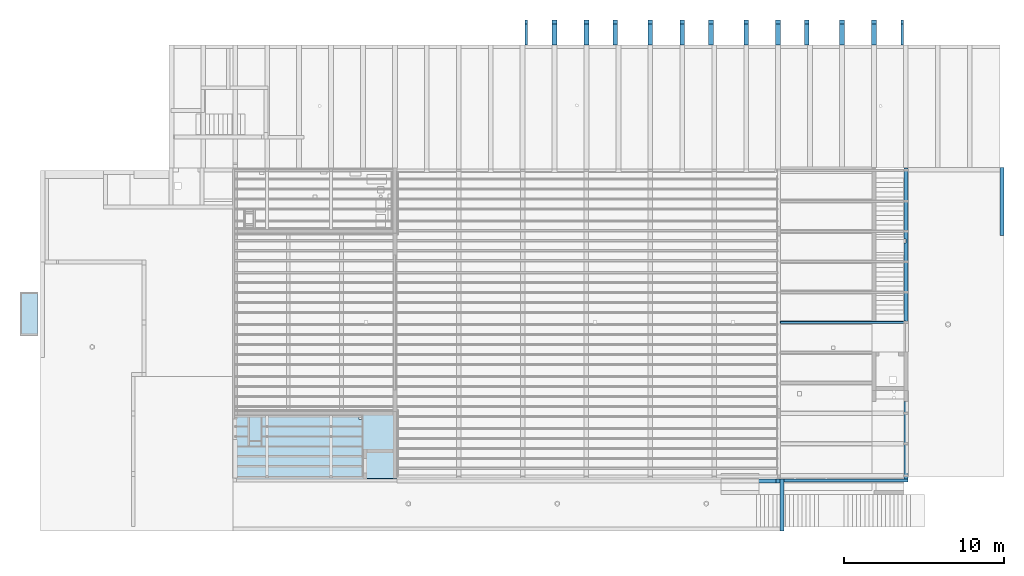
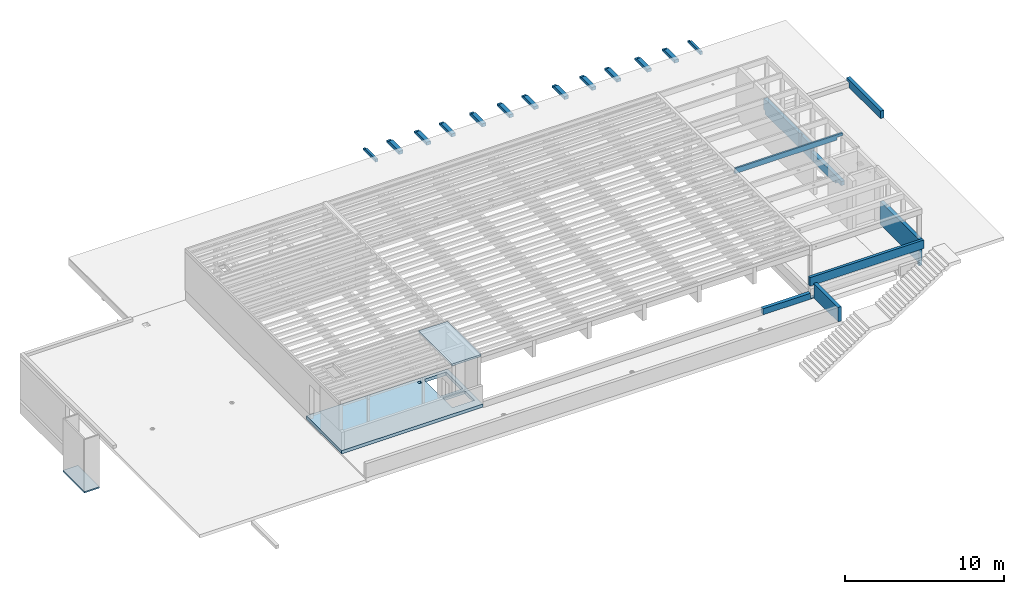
# One storey, part 7 of 14: 21 beams, 3 slabs, 3 openings.
"""IFC2X3 building model written with IfcOpenShell, lengths in metres."""

from ifc_helpers import new_model, entity, si_unit, converted_unit, direction, frame, frame_2d, origin, place, context, subcontext, project, spatial, rectangle, extrude, faceted_brep, material, layer, layer_set, layer_usage, type_object, element, save


model = new_model("IFC2X3")

# Units and contexts
model_context = context("Model", 3, precision=1e-05, world=frame((30.086303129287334, 2.687674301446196, 462.0)), true_north=direction((0.19008937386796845, 0.9817667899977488)))
body_context = subcontext(model_context, "Body", "Model", "MODEL_VIEW")
ifc_project = project(units=[si_unit("LENGTHUNIT", "METRE"), si_unit("AREAUNIT", "SQUARE_METRE"), converted_unit("PLANEANGLEUNIT", "DEGREE", entity("IfcPlaneAngleMeasure", 0.017453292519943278), si_unit("PLANEANGLEUNIT", "RADIAN"), dimensions=[0, 0, 0, 0, 0, 0, 0]), si_unit("VOLUMEUNIT", "CUBIC_METRE")], contexts=[model_context])

# Site, building, storey
site_placement = place(None, origin())
site = spatial("IfcSite", under=ifc_project, at=site_placement, Name="Default", CompositionType="ELEMENT")
building_placement = place(site_placement, origin())
building = spatial("IfcBuilding", under=site, at=building_placement, CompositionType="ELEMENT")
storey_placement = place(building_placement, origin())
storey = spatial("IfcBuildingStorey", under=building, at=storey_placement, Name="FB_E00_OKFB", CompositionType="ELEMENT", Elevation=0.0)

# Beams
ifc_material_1 = material(Name="WS_CONCRETE_REINFORCED")
beam_type_1 = type_object("IfcBeamType", Name="WS_CBM_UPST_REC:CBM_UPST_REC_250x835", PredefinedType="BEAM")
beam_1_placement = place(storey_placement, frame((98.00533792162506, -5.386775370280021, 3.68), z_axis=(0.0, 0.0, 1.0), x_axis=(0.0, -1.0, 0.0)))
element("IfcBeam", 1, at=beam_1_placement, inside=storey, type_object=beam_type_1, material=ifc_material_1, Name="WS_CBM_UPST_REC:CBM_UPST_REC_250x835", ObjectType="WS_CBM_UPST_REC:CBM_UPST_REC_250x835", context=body_context, shape_type="Brep", body=[
    faceted_brep([(0.0, 0.2500000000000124, 0.5849999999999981), (0.0, 0.0, 0.5849999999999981), (0.0, 0.0, 0.0), (0.0, 0.2500000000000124, 0.0), (-4.257120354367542, 0.2500000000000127, 0.5849999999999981), (-4.257120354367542, 0.0, 0.5849999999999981), (-4.257120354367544, 0.0, 0.3549999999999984), (-3.9571203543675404, 0.0, 0.3549999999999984), (-3.9571203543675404, 0.0, 0.0), (-3.95712035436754, 0.25000000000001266, 0.0), (-3.95712035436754, 0.25000000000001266, 0.3549999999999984), (-4.257120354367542, 0.2500000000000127, 0.3549999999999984)], [[[0, 1, 2, 3]], [[1, 0, 4, 5]], [[2, 1, 5, 6, 7, 8]], [[0, 3, 9, 10, 11, 4]], [[3, 2, 8, 9]], [[10, 7, 6, 11]], [[7, 10, 9, 8]], [[5, 4, 11, 6]]]),
])
ifc_material_2 = material(Name="WS_TIMBER_GLT_0°")
beam_type_2 = type_object("IfcBeamType", Name="WS_TBM_GLT:TBM_GLT_120/400", PredefinedType="BEAM")
beam_2_placement = place(storey_placement, frame((84.25533735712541, -10.894647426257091, 7.6049999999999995), z_axis=(0.0, 0.0, 1.0), x_axis=(-1.0, 0.0, 0.0)))
element("IfcBeam", 2, at=beam_2_placement, inside=storey, type_object=beam_type_2, material=ifc_material_2, Name="WS_TBM_GLT:TBM_GLT_120/400", ObjectType="WS_TBM_GLT:TBM_GLT_120/400", context=body_context, shape_type="Brep", body=[
    faceted_brep([(-7.84499997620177, -0.12000000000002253, 0.4), (-7.84499997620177, 0.0, 0.4), (-7.84499997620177, 0.0, 0.19999999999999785), (-7.84499997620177, -0.12000000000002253, 0.19999999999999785), (0.0, 0.0, 0.0), (0.0, 0.0, 0.4), (0.0, -0.12000000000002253, 0.4), (0.0, -0.12000000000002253, 0.0), (-7.409999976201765, -0.12000000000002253, 0.0), (-7.409999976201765, 0.0, 0.0), (-7.409999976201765, -0.12000000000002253, 0.19999999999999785), (-7.409999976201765, 0.0, 0.19999999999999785)], [[[0, 1, 2, 3]], [[4, 5, 6, 7]], [[1, 0, 6, 5]], [[4, 7, 8, 9]], [[7, 6, 0, 3, 10, 8]], [[5, 4, 9, 11, 2, 1]], [[11, 10, 3, 2]], [[10, 11, 9, 8]]]),
])
beam_type_3 = type_object("IfcBeamType", Name="WS_TBM_GLT:TBM_GLT_300/240", PredefinedType="BEAM")
beam_3_placement = place(storey_placement, frame((71.95533609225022, 6.53035183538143, 3.525), z_axis=(0.0, 0.0, 1.0), x_axis=(0.0, 1.0, 0.0)))
element("IfcBeam", 3, at=beam_3_placement, inside=storey, type_object=beam_type_3, material=ifc_material_2, Name="WS_TBM_GLT:TBM_GLT_300/240", ObjectType="WS_TBM_GLT:TBM_GLT_300/240", context=body_context, shape_type="Brep", body=[
    faceted_brep([(0.0, 0.0, 0.0), (0.0, -0.3000000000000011, 0.0), (0.0, -0.3000000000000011, 0.24000000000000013), (0.0, 0.0, 0.24000000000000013), (1.5749999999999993, -0.3000000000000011, 0.0), (1.5749999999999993, 0.0, 0.0), (1.5749999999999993, 0.0, 0.1530000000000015), (1.5749999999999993, -0.3000000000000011, 0.1530000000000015), (1.3309999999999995, -0.3000000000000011, 0.24000000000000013), (1.3309999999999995, 0.0, 0.24000000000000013), (1.3309999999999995, -0.3000000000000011, 0.1530000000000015), (1.3309999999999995, 0.0, 0.1530000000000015)], [[[0, 1, 2, 3]], [[4, 5, 6, 7]], [[3, 2, 8, 9]], [[1, 0, 5, 4]], [[2, 1, 4, 7, 10, 8]], [[0, 3, 9, 11, 6, 5]], [[10, 11, 9, 8]], [[11, 10, 7, 6]]]),
])
beam_4_placement = place(storey_placement, frame((73.755337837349, 6.530351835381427, 3.525), z_axis=(0.0, 0.0, 1.0), x_axis=(0.0, 1.0, 0.0)))
element("IfcBeam", 4, at=beam_4_placement, inside=storey, type_object=beam_type_3, material=ifc_material_2, Name="WS_TBM_GLT:TBM_GLT_300/240", ObjectType="WS_TBM_GLT:TBM_GLT_300/240", context=body_context, shape_type="Brep", body=[
    faceted_brep([(0.0, 0.0, 0.0), (0.0, -0.3000000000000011, 0.0), (0.0, -0.3000000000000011, 0.24000000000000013), (0.0, 0.0, 0.24000000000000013), (1.5749999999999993, -0.3000000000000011, 0.0), (1.5749999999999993, 0.0, 0.0), (1.5749999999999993, 0.0, 0.15300000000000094), (1.5749999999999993, -0.3000000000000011, 0.15300000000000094), (1.3309999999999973, -0.3000000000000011, 0.24000000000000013), (1.3309999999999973, 0.0, 0.24000000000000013), (1.3309999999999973, -0.3000000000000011, 0.15300000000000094), (1.3309999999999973, 0.0, 0.15300000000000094)], [[[0, 1, 2, 3]], [[4, 5, 6, 7]], [[3, 2, 8, 9]], [[1, 0, 5, 4]], [[2, 1, 4, 7, 10, 8]], [[0, 3, 9, 11, 6, 5]], [[10, 11, 9, 8]], [[11, 10, 7, 6]]]),
])
beam_5_placement = place(storey_placement, frame((69.9553370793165, 6.530351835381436, 3.525), z_axis=(0.0, 0.0, 1.0), x_axis=(0.0, 1.0, 0.0)))
element("IfcBeam", 5, at=beam_5_placement, inside=storey, type_object=beam_type_3, material=ifc_material_2, Name="WS_TBM_GLT:TBM_GLT_300/240", ObjectType="WS_TBM_GLT:TBM_GLT_300/240", context=body_context, shape_type="Brep", body=[
    faceted_brep([(0.0, 0.0, 0.0), (0.0, -0.3000000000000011, 0.0), (0.0, -0.3000000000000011, 0.24000000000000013), (0.0, 0.0, 0.24000000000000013), (1.5749999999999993, -0.3000000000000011, 0.0), (1.5749999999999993, 0.0, 0.0), (1.5749999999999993, 0.0, 0.1530000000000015), (1.5749999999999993, -0.3000000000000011, 0.1530000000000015), (1.3310000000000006, -0.3000000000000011, 0.24000000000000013), (1.3310000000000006, 0.0, 0.24000000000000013), (1.3310000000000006, -0.3000000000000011, 0.1530000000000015), (1.3310000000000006, 0.0, 0.1530000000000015)], [[[0, 1, 2, 3]], [[4, 5, 6, 7]], [[3, 2, 8, 9]], [[1, 0, 5, 4]], [[2, 1, 4, 7, 10, 8]], [[0, 3, 9, 11, 6, 5]], [[10, 11, 9, 8]], [[11, 10, 7, 6]]]),
])
beam_6_placement = place(storey_placement, frame((75.95533609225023, 6.530351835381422, 3.525), z_axis=(0.0, 0.0, 1.0), x_axis=(0.0, 1.0, 0.0)))
element("IfcBeam", 6, at=beam_6_placement, inside=storey, type_object=beam_type_3, material=ifc_material_2, Name="WS_TBM_GLT:TBM_GLT_300/240", ObjectType="WS_TBM_GLT:TBM_GLT_300/240", context=body_context, shape_type="Brep", body=[
    faceted_brep([(0.0, 0.0, 0.0), (0.0, -0.3000000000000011, 0.0), (0.0, -0.3000000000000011, 0.24000000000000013), (0.0, 0.0, 0.24000000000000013), (1.5749999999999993, -0.3000000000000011, 0.0), (1.5749999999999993, 0.0, 0.0), (1.5749999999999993, 0.0, 0.15300000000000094), (1.5749999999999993, -0.3000000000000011, 0.15300000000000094), (1.3309999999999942, -0.3000000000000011, 0.24000000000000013), (1.3309999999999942, 0.0, 0.24000000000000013), (1.3309999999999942, -0.3000000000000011, 0.15300000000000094), (1.3309999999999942, 0.0, 0.15300000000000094)], [[[0, 1, 2, 3]], [[4, 5, 6, 7]], [[3, 2, 8, 9]], [[1, 0, 5, 4]], [[2, 1, 4, 7, 10, 8]], [[0, 3, 9, 11, 6, 5]], [[10, 11, 9, 8]], [[11, 10, 7, 6]]]),
])
beam_7_placement = place(storey_placement, frame((77.95533510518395, 6.53035183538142, 3.525), z_axis=(0.0, 0.0, 1.0), x_axis=(0.0, 1.0, 0.0)))
element("IfcBeam", 7, at=beam_7_placement, inside=storey, type_object=beam_type_3, material=ifc_material_2, Name="WS_TBM_GLT:TBM_GLT_300/240", ObjectType="WS_TBM_GLT:TBM_GLT_300/240", context=body_context, shape_type="Brep", body=[
    faceted_brep([(0.0, -1.2295337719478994e-06, 0.0), (0.0, -0.30000122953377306, 0.0), (0.0, -0.30000122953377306, 0.24000000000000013), (0.0, -1.2295337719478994e-06, 0.24000000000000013), (1.5749999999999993, -0.30000122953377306, 0.0), (1.5749999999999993, -1.2295337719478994e-06, 0.0), (1.5749999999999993, -1.2295337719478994e-06, 0.15300000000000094), (1.5749999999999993, -0.30000122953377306, 0.15300000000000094), (1.3309999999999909, -0.30000122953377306, 0.24000000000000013), (1.3309999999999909, -1.2295337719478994e-06, 0.24000000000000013), (1.3309999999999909, -0.30000122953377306, 0.15300000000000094), (1.3309999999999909, -1.2295337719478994e-06, 0.15300000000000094), (1.3309999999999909, -0.3000000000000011, 0.15300000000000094), (1.3309999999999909, 0.0, 0.15300000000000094)], [[[0, 1, 2, 3]], [[4, 5, 6, 7]], [[3, 2, 8, 9]], [[1, 0, 5, 4]], [[2, 1, 4, 7, 10, 8]], [[0, 3, 9, 11, 6, 5]], [[12, 11, 9, 8]], [[13, 10, 7, 6]]]),
])
beam_8_placement = place(storey_placement, frame((79.75533735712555, 6.530351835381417, 3.525), z_axis=(0.0, 0.0, 1.0), x_axis=(0.0, 1.0, 0.0)))
element("IfcBeam", 8, at=beam_8_placement, inside=storey, type_object=beam_type_3, material=ifc_material_2, Name="WS_TBM_GLT:TBM_GLT_300/240", ObjectType="WS_TBM_GLT:TBM_GLT_300/240", context=body_context, shape_type="Brep", body=[
    faceted_brep([(0.0, 0.0, 0.0), (0.0, -0.3000000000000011, 0.0), (0.0, -0.3000000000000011, 0.24000000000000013), (0.0, 0.0, 0.24000000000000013), (1.5749999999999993, -0.3000000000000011, 0.0), (1.5749999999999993, 0.0, 0.0), (1.5749999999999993, 0.0, 0.15300000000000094), (1.5749999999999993, -0.3000000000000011, 0.15300000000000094), (1.3309999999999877, -0.3000000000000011, 0.24000000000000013), (1.3309999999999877, 0.0, 0.24000000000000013), (1.3309999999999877, -0.3000000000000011, 0.15300000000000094), (1.3309999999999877, 0.0, 0.15300000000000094)], [[[0, 1, 2, 3]], [[4, 5, 6, 7]], [[3, 2, 8, 9]], [[1, 0, 5, 4]], [[2, 1, 4, 7, 10, 8]], [[0, 3, 9, 11, 6, 5]], [[10, 11, 9, 8]], [[11, 10, 7, 6]]]),
])
beam_9_placement = place(storey_placement, frame((81.95533596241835, 6.5303518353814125, 3.525), z_axis=(0.0, 0.0, 1.0), x_axis=(0.0, 1.0, 0.0)))
element("IfcBeam", 9, at=beam_9_placement, inside=storey, type_object=beam_type_3, material=ifc_material_2, Name="WS_TBM_GLT:TBM_GLT_300/240", ObjectType="WS_TBM_GLT:TBM_GLT_300/240", context=body_context, shape_type="Brep", body=[
    faceted_brep([(0.0, 0.0, 0.0), (0.0, -0.3000000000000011, 0.0), (0.0, -0.3000000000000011, 0.24000000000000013), (0.0, 0.0, 0.24000000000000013), (1.5749999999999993, -0.3000000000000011, 0.0), (1.5749999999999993, 0.0, 0.0), (1.5749999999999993, 0.0, 0.15300000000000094), (1.5749999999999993, -0.3000000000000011, 0.15300000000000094), (1.3309999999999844, -0.3000000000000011, 0.24000000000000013), (1.3309999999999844, 0.0, 0.24000000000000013), (1.3309999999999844, -0.3000000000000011, 0.15300000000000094), (1.3309999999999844, 0.0, 0.15300000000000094)], [[[0, 1, 2, 3]], [[4, 5, 6, 7]], [[3, 2, 8, 9]], [[1, 0, 5, 4]], [[2, 1, 4, 7, 10, 8]], [[0, 3, 9, 11, 6, 5]], [[10, 11, 9, 8]], [[11, 10, 7, 6]]]),
])
beam_10_placement = place(storey_placement, frame((83.95533497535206, 6.53035183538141, 3.525), z_axis=(0.0, 0.0, 1.0), x_axis=(0.0, 1.0, 0.0)))
element("IfcBeam", 10, at=beam_10_placement, inside=storey, type_object=beam_type_3, material=ifc_material_2, Name="WS_TBM_GLT:TBM_GLT_300/240", ObjectType="WS_TBM_GLT:TBM_GLT_300/240", context=body_context, shape_type="Brep", body=[
    faceted_brep([(0.0, -1.1168981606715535e-06, 0.0), (0.0, -0.3000011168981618, 0.0), (0.0, -0.3000011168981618, 0.24000000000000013), (0.0, -1.1168981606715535e-06, 0.24000000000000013), (1.5749999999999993, -0.3000011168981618, 0.0), (1.5749999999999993, -1.1168981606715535e-06, 0.0), (1.5749999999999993, -1.1168981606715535e-06, 0.15300000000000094), (1.5749999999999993, -0.3000011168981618, 0.15300000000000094), (1.330999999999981, -0.3000011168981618, 0.24000000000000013), (1.330999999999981, -1.1168981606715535e-06, 0.24000000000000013), (1.330999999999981, -0.3000011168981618, 0.15300000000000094), (1.330999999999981, -1.1168981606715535e-06, 0.15300000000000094), (1.330999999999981, -0.3000000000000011, 0.15300000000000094), (1.330999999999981, 0.0, 0.15300000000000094)], [[[0, 1, 2, 3]], [[4, 5, 6, 7]], [[3, 2, 8, 9]], [[1, 0, 5, 4]], [[2, 1, 4, 7, 10, 8]], [[0, 3, 9, 11, 6, 5]], [[12, 11, 9, 8]], [[13, 10, 7, 6]]]),
])
beam_11_placement = place(storey_placement, frame((85.755337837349, 6.530351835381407, 3.525), z_axis=(0.0, 0.0, 1.0), x_axis=(0.0, 1.0, 0.0)))
element("IfcBeam", 11, at=beam_11_placement, inside=storey, type_object=beam_type_3, material=ifc_material_2, Name="WS_TBM_GLT:TBM_GLT_300/240", ObjectType="WS_TBM_GLT:TBM_GLT_300/240", context=body_context, shape_type="Brep", body=[
    faceted_brep([(0.0, 0.0, 0.0), (0.0, -0.3000000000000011, 0.0), (0.0, -0.3000000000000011, 0.24000000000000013), (0.0, 0.0, 0.24000000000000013), (1.5749999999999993, -0.3000000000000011, 0.0), (1.5749999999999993, 0.0, 0.0), (1.5749999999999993, 0.0, 0.15300000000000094), (1.5749999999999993, -0.3000000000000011, 0.15300000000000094), (1.330999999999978, -0.3000000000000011, 0.24000000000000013), (1.330999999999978, 0.0, 0.24000000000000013), (1.330999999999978, -0.3000000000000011, 0.15300000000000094), (1.330999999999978, 0.0, 0.15300000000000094)], [[[0, 1, 2, 3]], [[4, 5, 6, 7]], [[3, 2, 8, 9]], [[1, 0, 5, 4]], [[2, 1, 4, 7, 10, 8]], [[0, 3, 9, 11, 6, 5]], [[10, 11, 9, 8]], [[11, 10, 7, 6]]]),
])
beam_12_placement = place(storey_placement, frame((87.9553367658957, 6.530351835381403, 3.525), z_axis=(0.0, 0.0, 1.0), x_axis=(0.0, 1.0, 0.0)))
element("IfcBeam", 12, at=beam_12_placement, inside=storey, type_object=beam_type_3, material=ifc_material_2, Name="WS_TBM_GLT:TBM_GLT_300/240", ObjectType="WS_TBM_GLT:TBM_GLT_300/240", context=body_context, shape_type="Brep", body=[
    faceted_brep([(0.0, 0.0, 0.0), (0.0, -0.3000000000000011, 0.0), (0.0, -0.3000000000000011, 0.24000000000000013), (0.0, 0.0, 0.24000000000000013), (1.5749999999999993, -0.3000000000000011, 0.0), (1.5749999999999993, 0.0, 0.0), (1.5749999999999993, 0.0, 0.15300000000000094), (1.5749999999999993, -0.3000000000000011, 0.15300000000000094), (1.3309999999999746, -0.3000000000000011, 0.24000000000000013), (1.3309999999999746, 0.0, 0.24000000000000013), (1.3309999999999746, -0.3000000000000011, 0.15300000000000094), (1.3309999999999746, 0.0, 0.15300000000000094)], [[[0, 1, 2, 3]], [[4, 5, 6, 7]], [[3, 2, 8, 9]], [[1, 0, 5, 4]], [[2, 1, 4, 7, 10, 8]], [[0, 3, 9, 11, 6, 5]], [[10, 11, 9, 8]], [[11, 10, 7, 6]]]),
])
beam_13_placement = place(storey_placement, frame((89.95533577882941, 6.5303518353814, 3.525), z_axis=(0.0, 0.0, 1.0), x_axis=(0.0, 1.0, 0.0)))
element("IfcBeam", 13, at=beam_13_placement, inside=storey, type_object=beam_type_3, material=ifc_material_2, Name="WS_TBM_GLT:TBM_GLT_300/240", ObjectType="WS_TBM_GLT:TBM_GLT_300/240", context=body_context, shape_type="Brep", body=[
    faceted_brep([(0.0, -3.1342081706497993e-07, 0.0), (0.0, -0.3000003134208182, 0.0), (0.0, -0.3000003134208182, 0.24000000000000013), (0.0, -3.1342081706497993e-07, 0.24000000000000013), (1.5749999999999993, -0.3000003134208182, 0.0), (1.5749999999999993, -3.1342081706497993e-07, 0.0), (1.5749999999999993, -3.1342081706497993e-07, 0.15300000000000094), (1.5749999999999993, -0.3000003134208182, 0.15300000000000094), (1.3309999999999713, -0.3000003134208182, 0.24000000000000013), (1.3309999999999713, -3.1342081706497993e-07, 0.24000000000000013), (1.3309999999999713, -0.3000003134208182, 0.15300000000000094), (1.3309999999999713, -3.1342081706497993e-07, 0.15300000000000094), (1.3309999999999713, -0.3000000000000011, 0.15300000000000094), (1.3309999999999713, 0.0, 0.15300000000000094)], [[[0, 1, 2, 3]], [[4, 5, 6, 7]], [[3, 2, 8, 9]], [[1, 0, 5, 4]], [[2, 1, 4, 7, 10, 8]], [[0, 3, 9, 11, 6, 5]], [[12, 11, 9, 8]], [[13, 10, 7, 6]]]),
])
beam_type_4 = type_object("IfcBeamType", Name="WS_TBM_GLT:TBM_GLT_150/240", PredefinedType="BEAM")
beam_14_placement = place(storey_placement, frame((68.25533735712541, 6.53035183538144, 3.525), z_axis=(0.0, 0.0, 1.0), x_axis=(0.0, 1.0, 0.0)))
element("IfcBeam", 14, at=beam_14_placement, inside=storey, type_object=beam_type_4, material=ifc_material_2, Name="WS_TBM_GLT:TBM_GLT_150/240", ObjectType="WS_TBM_GLT:TBM_GLT_150/240", context=body_context, shape_type="Brep", body=[
    faceted_brep([(0.0, 0.0, 0.0), (0.0, -0.15000000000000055, 0.0), (0.0, -0.15000000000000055, 0.24000000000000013), (0.0, 0.0, 0.24000000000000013), (1.5750000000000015, -0.15000000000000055, 0.0), (1.5750000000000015, 0.0, 0.0), (1.5750000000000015, 0.0, 0.15300000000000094), (1.5750000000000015, -0.15000000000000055, 0.15300000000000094), (1.3310000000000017, -0.15000000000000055, 0.24000000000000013), (1.3310000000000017, 0.0, 0.24000000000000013), (1.3310000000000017, -0.15000000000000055, 0.15300000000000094), (1.3310000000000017, 0.0, 0.15300000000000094)], [[[0, 1, 2, 3]], [[4, 5, 6, 7]], [[3, 2, 8, 9]], [[1, 0, 5, 4]], [[2, 1, 4, 7, 10, 8]], [[0, 3, 9, 11, 6, 5]], [[10, 11, 9, 8]], [[11, 10, 7, 6]]]),
])
beam_15_placement = place(storey_placement, frame((91.8053373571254, 6.5303518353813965, 3.525), z_axis=(0.0, 0.0, 1.0), x_axis=(0.0, 1.0, 0.0)))
element("IfcBeam", 15, at=beam_15_placement, inside=storey, type_object=beam_type_4, material=ifc_material_2, Name="WS_TBM_GLT:TBM_GLT_150/240", ObjectType="WS_TBM_GLT:TBM_GLT_150/240", context=body_context, shape_type="Brep", body=[
    faceted_brep([(0.0, 0.0, 0.0), (0.0, -0.15000000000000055, 0.0), (0.0, -0.15000000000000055, 0.24000000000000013), (0.0, 0.0, 0.24000000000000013), (1.5750000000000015, -0.15000000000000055, 0.0), (1.5750000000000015, 0.0, 0.0), (1.5750000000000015, 0.0, 0.15300000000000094), (1.5750000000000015, -0.15000000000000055, 0.15300000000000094), (1.3309999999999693, -0.15000000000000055, 0.24000000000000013), (1.3309999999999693, 0.0, 0.24000000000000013), (1.3309999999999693, -0.15000000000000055, 0.15300000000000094), (1.3309999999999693, 0.0, 0.15300000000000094)], [[[0, 1, 2, 3]], [[4, 5, 6, 7]], [[3, 2, 8, 9]], [[1, 0, 5, 4]], [[2, 1, 4, 7, 10, 8]], [[0, 3, 9, 11, 6, 5]], [[10, 11, 9, 8]], [[11, 10, 7, 6]]]),
])
beam_type_5 = type_object("IfcBeamType", Name="WS_CBM_UPST_REC:CBM_UPST_REC_250x137", PredefinedType="BEAM")
beam_16_placement = place(storey_placement, frame((91.98033873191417, -7.094647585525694, 3.6799999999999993), z_axis=(0.0, 0.0, 1.0), x_axis=(0.0, -1.0, 0.0)))
element("IfcBeam", 16, at=beam_16_placement, inside=storey, type_object=beam_type_5, material=ifc_material_1, Name="WS_CBM_UPST_REC:CBM_UPST_REC_250x137", ObjectType="WS_CBM_UPST_REC:CBM_UPST_REC_250x137", context=body_context, shape_type="Brep", body=[
    faceted_brep([(0.0, 0.2500000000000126, 1.1199999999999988), (0.0, 0.0, 1.1199999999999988), (0.0, 0.0, 0.6299999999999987), (0.0, 0.0, 0.0), (0.0, 0.2500000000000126, 0.0), (0.0, 0.2500000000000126, 0.6299999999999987), (-5.939992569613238, 0.0, 1.1199999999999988), (-5.939992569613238, 0.25000000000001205, 1.1199999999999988), (-5.939992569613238, 0.25000000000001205, 0.2550000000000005), (-5.939992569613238, 0.0, 0.2550000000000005), (-1.4857214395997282, 0.0, 1.1199999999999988), (-1.4857214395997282, 0.15000000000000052, 1.1199999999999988), (-1.2357214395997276, 0.15000000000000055, 1.1199999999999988), (-1.2357214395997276, 0.0, 1.1199999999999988), (-1.2357214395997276, 0.0, 0.0), (-5.80998526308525, 0.25000000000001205, 0.0), (-5.80998526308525, 0.25000000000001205, 0.2550000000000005), (-1.4857214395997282, 0.0, 0.0), (-1.4857214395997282, 0.15000000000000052, 0.0), (-1.2357214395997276, 0.15000000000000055, 0.0), (-5.80998526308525, 0.0, 0.2550000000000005), (-5.80998526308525, 0.0, 0.0)], [[[0, 1, 2, 3, 4, 5]], [[6, 7, 8, 9]], [[1, 0, 7, 6, 10, 11, 12, 13]], [[1, 13, 14, 3, 2]], [[7, 0, 5, 4, 15, 16, 8]], [[11, 10, 17, 18]], [[13, 12, 19, 14]], [[12, 11, 18, 19]], [[16, 20, 9, 8]], [[20, 16, 15, 21]], [[4, 3, 14, 19, 18, 17, 21, 15]], [[10, 6, 9, 20, 21, 17]]]),
])
beam_type_6 = type_object("IfcBeamType", Name="WS_CBM_UPST_REC:CBM_UPST_REC_250x1400", PredefinedType="BEAM")
beam_17_placement = place(storey_placement, frame((84.23033873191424, -23.91465501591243, 4.1499999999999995), z_axis=(0.0, 0.0, 1.0), x_axis=(0.0, -1.0, 0.0)))
element("IfcBeam", 17, at=beam_17_placement, inside=storey, type_object=beam_type_6, material=ifc_material_1, Name="WS_CBM_UPST_REC:CBM_UPST_REC_250x1400", ObjectType="WS_CBM_UPST_REC:CBM_UPST_REC_250x1400", context=body_context, shape_type="Brep", body=[
    faceted_brep([(-3.275095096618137, 0.24999999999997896, 1.0999999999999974), (-3.2750950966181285, 0.0, 1.0999999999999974), (-3.0750950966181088, 0.0, 1.0999999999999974), (-0.24999999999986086, 0.0, 1.0999999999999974), (0.0, 0.0, 1.0999999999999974), (0.0, 0.2500000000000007, 1.0999999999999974), (-3.0750950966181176, 0.25000000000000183, 1.0999999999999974), (0.0, 0.2500000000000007, 0.0), (-3.275095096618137, 0.2499999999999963, 0.0), (-3.275095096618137, 0.2499999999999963, 0.05999999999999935), (-3.0250950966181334, 0.2499999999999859, 0.05999999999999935), (-3.0250950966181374, 0.2499999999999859, 0.7699999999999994), (-3.0250950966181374, 0.2499999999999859, 0.9699999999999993), (-3.0750950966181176, 0.25000000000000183, 0.9699999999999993), (-3.275095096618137, 0.2499999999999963, 0.9699999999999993), (-3.2750950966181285, 0.0, 0.0), (-3.025095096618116, 0.0, 0.0), (-0.24999999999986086, 0.0, 0.0), (0.0, 0.0, 0.0), (-3.2750950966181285, 0.0, 0.9699999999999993), (-3.0750950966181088, 0.0, 0.9699999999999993), (-3.025095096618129, 0.0, 0.9699999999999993), (-3.025095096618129, 0.0, 0.05999999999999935), (-3.2750950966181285, 0.0, 0.05999999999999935)], [[[0, 1, 2, 3, 4, 5, 6]], [[7, 8, 9, 10, 11, 12, 13, 14, 0, 6, 5]], [[15, 16, 17, 18, 4, 3, 2, 1, 19, 20, 21, 22, 23]], [[8, 7, 18, 17, 16, 15]], [[10, 22, 21, 12, 11]], [[22, 10, 9, 23]], [[1, 0, 14, 19]], [[23, 9, 8, 15]], [[5, 4, 18, 7]], [[12, 21, 20, 19, 14, 13]]]),
])
beam_type_7 = type_object("IfcBeamType", Name="WS_CBM_UPST_REC:CBM_UPST_REC_250x2035", PredefinedType="BEAM")
beam_18_placement = place(storey_placement, frame((91.98033873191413, -20.639559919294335, 3.734999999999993), z_axis=(0.0, 0.0, 1.0), x_axis=(0.0, -1.0, 0.0)))
element("IfcBeam", 18, at=beam_18_placement, inside=storey, type_object=beam_type_7, material=ifc_material_1, Name="WS_CBM_UPST_REC:CBM_UPST_REC_250x2035", ObjectType="WS_CBM_UPST_REC:CBM_UPST_REC_250x2035", context=body_context, shape_type="Brep", body=[
    faceted_brep([(0.0, 0.2500000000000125, 2.0349999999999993), (0.0, 0.0, 2.0349999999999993), (0.0, 0.0, 0.25000000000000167), (0.0, 0.0, 0.0), (0.0, 0.2500000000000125, 0.0), (0.0, 0.2500000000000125, 1.385000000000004), (-4.84556789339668, 0.2500000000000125, 2.0349999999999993), (-4.845567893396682, 0.0, 2.0349999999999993), (-4.84556789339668, 0.0, 0.25000000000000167), (-0.15491093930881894, 0.0, 0.25000000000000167), (-0.15491093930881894, 0.0, 0.0), (-0.15491093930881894, 0.2500000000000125, 0.0), (-0.15491093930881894, 0.2500000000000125, 0.25000000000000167), (-4.84556789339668, 0.2500000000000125, 0.25000000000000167)], [[[0, 1, 2, 3, 4, 5]], [[1, 0, 6, 7]], [[1, 7, 8, 9, 10, 3, 2]], [[4, 3, 10, 11]], [[0, 5, 4, 11, 12, 13, 6]], [[7, 6, 13, 8]], [[12, 9, 8, 13]], [[9, 12, 11, 10]]]),
])
beam_type_8 = type_object("IfcBeamType", Name="WS_CBM_UPST_REC:CBM_UPST_REC_250x760", PredefinedType="BEAM")
beam_19_placement = place(storey_placement, frame((80.5353372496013, -20.889559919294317, 4.1499999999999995), z_axis=(0.0, 0.0, 1.0), x_axis=(-1.0, 0.0, 0.0)))
element("IfcBeam", 19, at=beam_19_placement, inside=storey, type_object=beam_type_8, material=ifc_material_1, Name="WS_CBM_UPST_REC:CBM_UPST_REC_250x760", ObjectType="WS_CBM_UPST_REC:CBM_UPST_REC_250x760", context=body_context, shape_type="Brep", body=[
    faceted_brep([(-3.439999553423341, 0.0, 0.45999999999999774), (-3.439999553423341, -0.25000000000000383, 0.45999999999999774), (0.0, -0.25000000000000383, 0.45999999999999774), (0.0, -0.12500000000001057, 0.45999999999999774), (-0.0023929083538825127, -0.12500000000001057, 0.45999999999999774), (-0.0023929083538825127, 0.0, 0.45999999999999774), (-3.69500148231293, -0.25000000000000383, 0.059999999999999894), (-3.69500148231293, -0.25000000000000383, 0.0), (0.0, -0.25000000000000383, 0.0), (-3.439999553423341, -0.25000000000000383, 0.059999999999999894), (-3.6950014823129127, 0.0, 0.0), (-3.6950014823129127, 0.0, 0.059999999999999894), (-3.439999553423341, 0.0, 0.059999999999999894), (-0.0023929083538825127, 0.0, 0.0), (-0.0023929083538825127, -0.12500000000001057, 0.0), (0.0, -0.12500000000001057, 0.0)], [[[0, 1, 2, 3, 4, 5]], [[6, 7, 8, 2, 1, 9]], [[10, 11, 12, 0, 5, 13]], [[7, 10, 13, 14, 15, 8]], [[10, 7, 6, 11]], [[9, 12, 11, 6]], [[12, 9, 1, 0]], [[4, 14, 13, 5]], [[14, 4, 3, 15]], [[15, 3, 2, 8]]]),
])
beam_type_9 = type_object("IfcBeamType", Name="WS_CBM_UPST_REC:CBM_UPST_REC_200x850", PredefinedType="BEAM")
beam_20_placement = place(storey_placement, frame((83.97533680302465, -20.839559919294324, 5.1199999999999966), z_axis=(0.0, 0.0, 1.0), x_axis=(-1.0, 0.0, 0.0)))
element("IfcBeam", 20, at=beam_20_placement, inside=storey, type_object=beam_type_9, material=ifc_material_1, Name="WS_CBM_UPST_REC:CBM_UPST_REC_200x850", ObjectType="WS_CBM_UPST_REC:CBM_UPST_REC_200x850", context=body_context, shape_type="Brep", body=[
    faceted_brep([(0.0, 0.0, 0.6500000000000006), (0.0, -0.20000000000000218, 0.6500000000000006), (0.0, -0.20000000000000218, 0.0), (0.0, 0.0, 0.0), (-8.255001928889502, 0.0, 0.6500000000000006), (-8.255001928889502, -0.20000000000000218, 0.6500000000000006), (-8.00500192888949, -0.20000000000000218, 0.6500000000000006), (-0.5050019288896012, -0.20000000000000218, 0.1299999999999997), (-0.2550019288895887, -0.20000000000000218, 0.1299999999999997), (-0.2550019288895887, -0.20000000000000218, 0.0), (-8.255001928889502, -0.20000000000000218, 0.0), (-8.00500192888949, -0.20000000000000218, 0.0), (-0.5050019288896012, -0.20000000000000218, 0.0), (-0.2550019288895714, 0.0, 0.1299999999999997), (-0.5050019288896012, 0.0, 0.1299999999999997), (-0.5050019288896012, 0.0, 0.0), (-8.255001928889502, 0.0, 0.0), (-0.2550019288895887, 0.0, 0.0)], [[[0, 1, 2, 3]], [[1, 0, 4, 5, 6]], [[7, 8, 9, 2, 1, 6, 5, 10, 11, 12]], [[13, 14, 15, 16, 4, 0, 3, 17]], [[8, 7, 14, 13]], [[14, 7, 12, 15]], [[8, 13, 17, 9]], [[10, 16, 15, 12, 11]], [[5, 4, 16, 10]], [[3, 2, 9, 17]]]),
])
beam_type_10 = type_object("IfcBeamType", Name="WS_CBM_UPST_REC:CBM_UPST_REC_250x880", PredefinedType="BEAM")
beam_21_placement = place(storey_placement, frame((91.98033873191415, -10.894647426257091, 3.6800000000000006), z_axis=(0.0, 0.0, 1.0), x_axis=(0.0, -1.0, 0.0)))
element("IfcBeam", 21, at=beam_21_placement, inside=storey, type_object=beam_type_10, material=ifc_material_1, Name="WS_CBM_UPST_REC:CBM_UPST_REC_250x880", ObjectType="WS_CBM_UPST_REC:CBM_UPST_REC_250x880", context=body_context, shape_type="Brep", body=[
    faceted_brep([(-3.7999998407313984, 0.0, 0.6299999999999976), (-3.7999998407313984, 0.2500000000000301, 0.6299999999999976), (-3.7999998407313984, 0.2500000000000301, 0.0), (-3.7999998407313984, 0.0, 0.0), (0.0, 0.0, 0.6299999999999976), (0.0, 0.2500000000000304, 0.6299999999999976), (-0.9600388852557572, 0.0, 0.0), (-0.9600388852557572, 0.0, 0.05499999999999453), (-0.719999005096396, 0.0, 0.05499999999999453), (-0.719999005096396, 0.0, 0.18499999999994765), (-0.719999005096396, 0.0, 0.30499999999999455), (-0.5799990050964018, 0.0, 0.30499999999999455), (0.0, 0.0, 0.30499999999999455), (0.0, 0.2500000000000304, 0.30499999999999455), (-0.719999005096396, 0.25000000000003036, 0.30499999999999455), (-0.719999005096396, 0.25000000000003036, 0.05499999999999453), (-0.9600388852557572, 0.25000000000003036, 0.05499999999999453), (-0.9600388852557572, 0.25000000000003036, 0.0)], [[[0, 1, 2, 3]], [[4, 5, 1, 0]], [[4, 0, 3, 6, 7, 8, 9, 10, 11, 12]], [[1, 5, 13, 14, 15, 16, 17, 2]], [[13, 12, 11, 10, 14]], [[9, 8, 15, 14, 10]], [[3, 2, 17, 6]], [[16, 7, 6, 17]], [[7, 16, 15, 8]], [[5, 4, 12, 13]]]),
])

# Slab, openings
ifc_layer_1 = layer(ifc_material_1, 0.24999999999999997)
ifc_layer_set_1 = layer_set([ifc_layer_1], Name="Geschossdecke:WS_SLB_CON_250")
ifc_layer_usage_1 = layer_usage(ifc_layer_set_1, "AXIS3", "POSITIVE", 0.0)
slab_type_1 = type_object("IfcSlabType", Name="Geschossdecke:WS_SLB_CON_250", PredefinedType="FLOOR", material=ifc_layer_set_1)
slab_1_placement = place(storey_placement, frame((49.98033735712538, -20.839559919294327, 4.149999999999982)))
slab_1 = element("IfcSlab", 22, at=slab_1_placement, inside=storey, type_object=slab_type_1, material=ifc_layer_usage_1, Name="Geschossdecke:WS_SLB_CON_250", ObjectType="Geschossdecke:WS_SLB_CON_250", PredefinedType="FLOOR", context=body_context, shape_type="SweptSolid", body=[
    extrude(rectangle(XDim=10.250000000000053, YDim=4.429911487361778, at=frame_2d((0.0, 0.0), x_axis=(-1.0, 0.0))), frame((5.12500000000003, 2.21495574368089, 0.2500000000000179), z_axis=(0.0, 0.0, -1.0), x_axis=(-1.0, 0.0, 0.0)), (0.0, 0.0, 1.0), 0.25),
])
opening_1_placement = place(slab_1_placement, origin())
element("IfcOpeningElement", 23, at=opening_1_placement, cuts=slab_1, Name="Geschossdecke:WS_SLB_CON_250", ObjectType="Opening", context=body_context, shape_type="SweptSolid", body=[
    extrude(rectangle(XDim=1.6099999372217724, YDim=1.2300000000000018, at=frame_2d((0.0, -2.1649348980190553e-15), x_axis=(1.0, 0.0))), frame((9.195000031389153, 1.219910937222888, 0.0), z_axis=(0.0, 0.0, 1.0), x_axis=(-1.0, 0.0, 0.0)), (0.0, 0.0, 1.0), 0.25),
])
opening_2_placement = place(slab_1_placement, origin())
element("IfcOpeningElement", 24, at=opening_2_placement, cuts=slab_1, Name="Geschossdecke:WS_SLB_CON_250", ObjectType="Opening", context=body_context, shape_type="SweptSolid", body=[
    extrude(rectangle(XDim=1.6199999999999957, YDim=2.095000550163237, at=frame_2d((-8.659739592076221e-15, 0.0), x_axis=(1.0, 0.0))), frame((9.190000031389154, 3.1324112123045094, 0.0), z_axis=(0.0, 0.0, 1.0), x_axis=(-1.0, 0.0, 0.0)), (0.0, 0.0, 1.0), 0.25),
])
opening_3_placement = place(slab_1_placement, origin())
element("IfcOpeningElement", 25, at=opening_3_placement, cuts=slab_1, Name="Geschossdecke:WS_SLB_CON_250", ObjectType="Opening", context=body_context, shape_type="SweptSolid", body=[
    extrude(rectangle(XDim=0.22000000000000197, YDim=0.2199999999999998, at=frame_2d((0.0, 1.0824674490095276e-15), x_axis=(1.0, 0.0))), frame((8.000012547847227, 4.029911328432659, 0.0), z_axis=(0.0, 0.0, 1.0), x_axis=(-1.0, 0.0, 0.0)), (0.0, 0.0, 1.0), 0.25),
])

# Slabs
ifc_material_3 = material(Name="WS_CONCRETE_PRECAST")
ifc_layer_2 = layer(ifc_material_3, 0.1)
ifc_layer_set_2 = layer_set([ifc_layer_2], Name="Geschossdecke:WS_SLB_CON_100_PC")
ifc_layer_usage_2 = layer_usage(ifc_layer_set_2, "AXIS3", "POSITIVE", 0.0)
slab_type_2 = type_object("IfcSlabType", Name="Geschossdecke:WS_SLB_CON_100_PC", PredefinedType="FLOOR", material=ifc_layer_set_2)
slab_2_placement = place(storey_placement, origin())
element("IfcSlab", 26, at=slab_2_placement, inside=storey, type_object=slab_type_2, material=ifc_layer_usage_2, Name="Geschossdecke:WS_SLB_CON_100_PC", ObjectType="Geschossdecke:WS_SLB_CON_100_PC", PredefinedType="FLOOR", context=body_context, shape_type="SweptSolid", body=[
    extrude(rectangle(XDim=2.7199995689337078, YDim=1.1000000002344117, at=frame_2d((1.1102230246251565e-15, 0.0), x_axis=(1.0, 0.0))), frame((37.175337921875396, -10.299648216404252, 0.35999999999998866), z_axis=(0.0, 0.0, -1.0), x_axis=(0.0, 1.0, 0.0)), (0.0, 0.0, 1.0), 0.1),
])
ifc_layer_3 = layer(ifc_material_1, 0.14999999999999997)
ifc_layer_set_3 = layer_set([ifc_layer_3], Name="Geschossdecke:WS_SLB_CON_150")
ifc_layer_usage_3 = layer_usage(ifc_layer_set_3, "AXIS3", "POSITIVE", 0.0)
slab_type_3 = type_object("IfcSlabType", Name="Geschossdecke:WS_SLB_CON_150", PredefinedType="FLOOR", material=ifc_layer_set_3)
slab_3_placement = place(storey_placement, origin())
element("IfcSlab", 27, at=slab_3_placement, inside=storey, type_object=slab_type_3, material=ifc_layer_usage_3, Name="Geschossdecke:WS_SLB_CON_150", ObjectType="Geschossdecke:WS_SLB_CON_150", PredefinedType="FLOOR", context=body_context, shape_type="SweptSolid", body=[
    extrude(rectangle(XDim=4.214911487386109, YDim=2.109999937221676, at=frame_2d((-1.1102230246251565e-15, 8.659739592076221e-15), x_axis=(1.0, 0.0))), frame((59.17533738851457, -18.51710417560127, 8.065000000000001), z_axis=(0.0, 0.0, -1.0), x_axis=(0.0, 1.0, 0.0)), (0.0, 0.0, 1.0), 0.14999999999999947),
])

save(model, "model.ifc")
